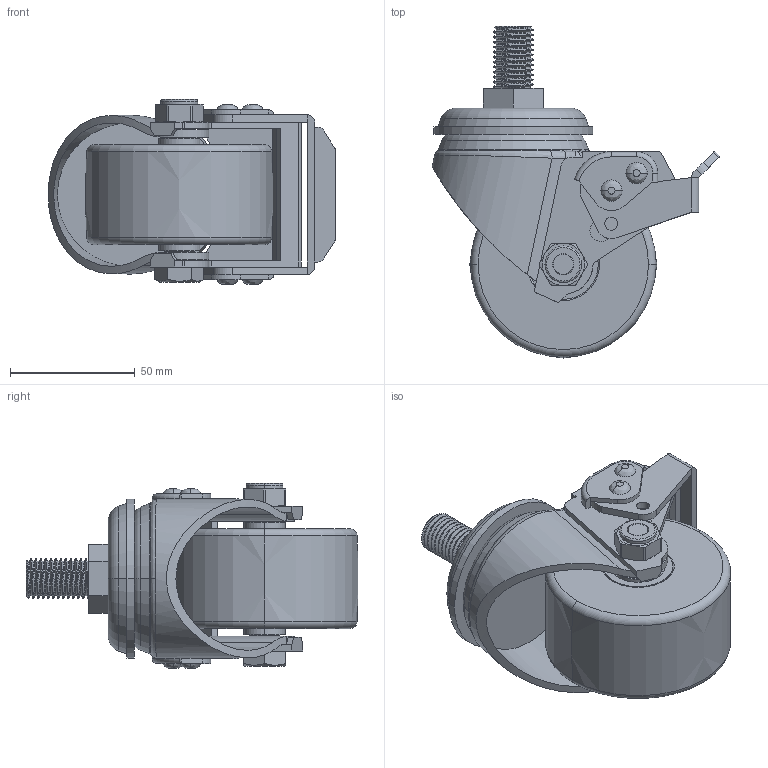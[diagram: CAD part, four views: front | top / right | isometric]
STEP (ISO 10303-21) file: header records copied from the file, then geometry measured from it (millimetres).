
FILE_DESCRIPTION((''),'2;1');
FILE_NAME('M433475-16_ASM','2022-01-15T',('lenovo'),(''),'PRO/ENGINEER BY PARAMETRIC TECHNOLOGY CORPORATION, 2010280','PRO/ENGINEER BY PARAMETRIC TECHNOLOGY CORPORATION, 2010280','');
FILE_SCHEMA(('CONFIG_CONTROL_DESIGN'));
Length unit declared in the file: millimetre
Products named in the file (14): M43375-311; M4330-211; M43075-916; 6001ZZ; 500-66; 640-54; M4375-16_ASM; 500-23; M43375-535; M4330-531; M4330-461; M430-33-67; 640-34; M433475-16_ASM
Assembly tree (15 placements, depth 3):
  M433475-16_ASM
    M43375-311
    M4330-211
    M4375-16_ASM
      M43075-916
      6001ZZ  x2
      500-66  x2
      640-54
    500-23
    M43375-535
    M4330-531
    M4330-461
    M430-33-67
    640-34
Bounding box: 115.2 x 132.96 x 74.11 mm (x, y, z)
Volume: 274943.5 mm3; surface area: 90534.9 mm2
Topology: 47 solids, 47 shells, 467 faces, 1173 edges, 685 vertices
Faces by surface type: cylinder 173, plane 140, sphere 62, torus 34, bspline 33, cone 25
Entity records: 16974 total; most frequent: CARTESIAN_POINT 7178, DIRECTION 2047, ORIENTED_EDGE 1942, EDGE_CURVE 971, AXIS2_PLACEMENT_3D 815, VERTEX_POINT 623, EDGE_LOOP 452, VECTOR 417
